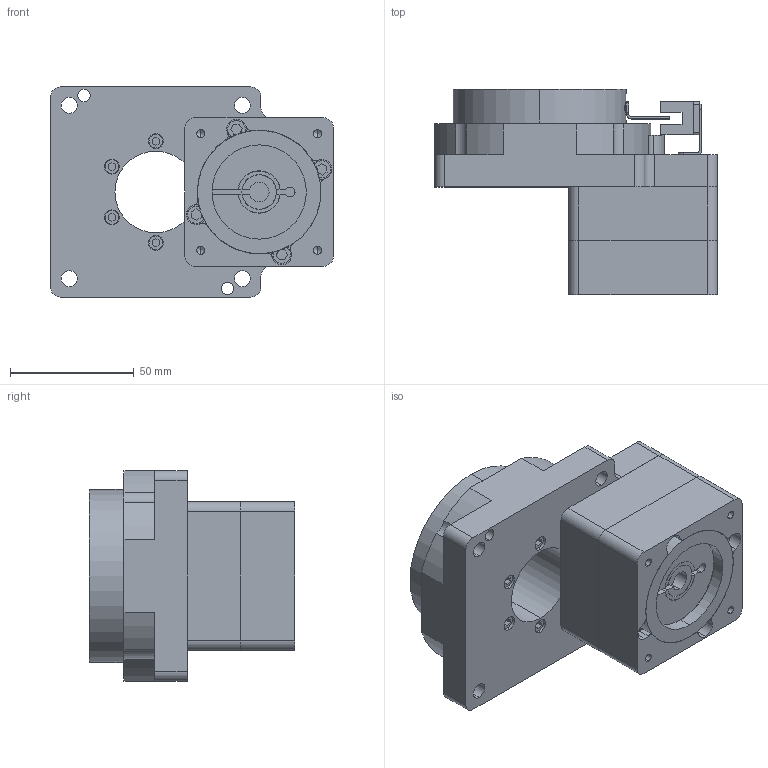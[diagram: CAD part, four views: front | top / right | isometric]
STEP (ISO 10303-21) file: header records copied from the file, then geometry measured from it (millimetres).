
FILE_DESCRIPTION(('Open CASCADE Model'),'2;1');
FILE_NAME('Open CASCADE Shape Model','2026-10-11T03:02:20',('Author'),( 'Open CASCADE'),'Open CASCADE STEP processor 7.8','Open CASCADE 7.8' ,'Unknown');
FILE_SCHEMA(('AUTOMOTIVE_DESIGN { 1 0 10303 214 1 1 1 1 }'));
Length unit declared in the file: millimetre
Products named in the file (3): NT85-10(配57步进 输入8-32 38.1-5 4-M4-47.14-47.14); NT85-10(配57步进 输入8-32 38.1-5 4-M4-47.14-47.14)-01; NT85-10(配57步进 输入8-32 38.1-5 4-M4-47.14-47.14)-02
Assembly tree (2 placements, depth 2):
  NT85-10(配57步进 输入8-32 38.1-5 4-M4-47.14-47.14)
    NT85-10(配57步进 输入8-32 38.1-5 4-M4-47.14-47.14)-01
    NT85-10(配57步进 输入8-32 38.1-5 4-M4-47.14-47.14)-02
Bounding box: 114.3 x 83 x 85 mm (x, y, z)
Volume: 348633.1 mm3; surface area: 76442.8 mm2
Topology: 7 solids, 13 shells, 1114 faces, 3032 edges, 1984 vertices
Faces by surface type: plane 852, cylinder 226, cone 36
Entity records: 73884 total; most frequent: CARTESIAN_POINT 15623, DIRECTION 10236, LINE 6796, VECTOR 6796, ORIENTED_EDGE 5992, PCURVE 5992, DEFINITIONAL_REPRESENTATION 5992, EDGE_CURVE 2996
